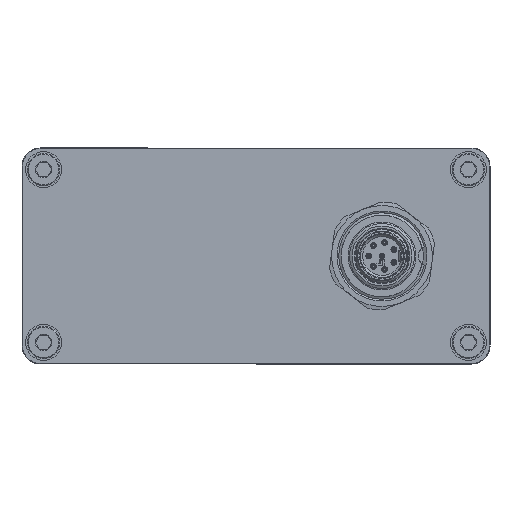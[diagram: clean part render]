
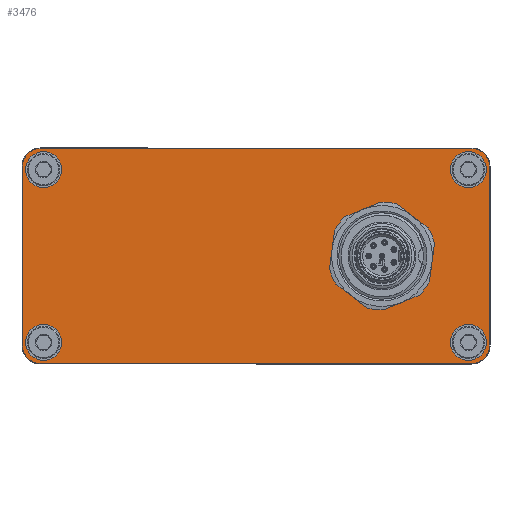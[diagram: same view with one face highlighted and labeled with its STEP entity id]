
A CAD part, left-side view. The second image highlights one B-rep face of the part: STEP entity #3476.
In plain terms, the highlighted planar face has unit normal (-1, 0, 0).
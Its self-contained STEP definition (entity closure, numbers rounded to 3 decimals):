
#2682=CARTESIAN_POINT('',(0.,-17.5,6.));
#2683=VERTEX_POINT('',#2682);
#2684=CARTESIAN_POINT('',(0.,-17.5,0.));
#2685=DIRECTION('',(1.0,0.0,0.0));
#2686=DIRECTION('',(0.0,0.0,-1.0));
#2687=AXIS2_PLACEMENT_3D('',#2684,#2685,#2686);
#2688=CIRCLE('',#2687,6.);
#2689=EDGE_CURVE('',#2683,#2683,#2688,.T.);
#2702=CARTESIAN_POINT('',(0.,-30.,-14.9));
#2703=VERTEX_POINT('',#2702);
#2721=CARTESIAN_POINT('',(0.,-32.4,-12.5));
#2722=VERTEX_POINT('',#2721);
#2729=CARTESIAN_POINT('',(0.,-30.,-12.5));
#2730=DIRECTION('',(1.,0.,0.));
#2731=DIRECTION('',(0.,-0.707,-0.707));
#2732=AXIS2_PLACEMENT_3D('',#2729,#2730,#2731);
#2733=CIRCLE('',#2732,2.4);
#2734=EDGE_CURVE('',#2722,#2703,#2733,.T.);
#2777=CARTESIAN_POINT('',(0.,30.,-14.9));
#2778=VERTEX_POINT('',#2777);
#2779=CARTESIAN_POINT('',(0.,-30.,-14.9));
#2780=DIRECTION('',(0.0,1.0,0.0));
#2781=VECTOR('',#2780,60.0);
#2782=LINE('',#2779,#2781);
#2783=EDGE_CURVE('',#2703,#2778,#2782,.T.);
#2807=CARTESIAN_POINT('',(0.,32.4,-12.5));
#2808=VERTEX_POINT('',#2807);
#2825=CARTESIAN_POINT('',(0.,30.,-12.5));
#2826=DIRECTION('',(1.0,0.,0.));
#2827=DIRECTION('',(0.,0.707,-0.707));
#2828=AXIS2_PLACEMENT_3D('',#2825,#2826,#2827);
#2829=CIRCLE('',#2828,2.4);
#2830=EDGE_CURVE('',#2778,#2808,#2829,.T.);
#2873=CARTESIAN_POINT('',(0.,32.4,12.5));
#2874=VERTEX_POINT('',#2873);
#2875=CARTESIAN_POINT('',(0.,32.4,-12.5));
#2876=DIRECTION('',(0.0,0.0,1.0));
#2877=VECTOR('',#2876,25.);
#2878=LINE('',#2875,#2877);
#2879=EDGE_CURVE('',#2808,#2874,#2878,.T.);
#2903=CARTESIAN_POINT('',(0.,30.,14.9));
#2904=VERTEX_POINT('',#2903);
#2921=CARTESIAN_POINT('',(0.,30.,12.5));
#2922=DIRECTION('',(1.,0.,0.));
#2923=DIRECTION('',(0.,0.707,0.707));
#2924=AXIS2_PLACEMENT_3D('',#2921,#2922,#2923);
#2925=CIRCLE('',#2924,2.4);
#2926=EDGE_CURVE('',#2874,#2904,#2925,.T.);
#3246=CARTESIAN_POINT('',(0.,-32.4,12.5));
#3247=VERTEX_POINT('',#3246);
#3265=CARTESIAN_POINT('',(0.,-30.,14.9));
#3266=VERTEX_POINT('',#3265);
#3273=CARTESIAN_POINT('',(0.,-30.,12.5));
#3274=DIRECTION('',(1.,0.,0.));
#3275=DIRECTION('',(0.,-0.707,0.707));
#3276=AXIS2_PLACEMENT_3D('',#3273,#3274,#3275);
#3277=CIRCLE('',#3276,2.4);
#3278=EDGE_CURVE('',#3266,#3247,#3277,.T.);
#3318=CARTESIAN_POINT('',(0.,-32.4,12.5));
#3319=DIRECTION('',(0.0,0.0,-1.0));
#3320=VECTOR('',#3319,25.0);
#3321=LINE('',#3318,#3320);
#3322=EDGE_CURVE('',#3247,#2722,#3321,.T.);
#3379=CARTESIAN_POINT('',(0.,30.,14.9));
#3380=DIRECTION('',(0.0,-1.0,0.0));
#3381=VECTOR('',#3380,60.0);
#3382=LINE('',#3379,#3381);
#3383=EDGE_CURVE('',#2904,#3266,#3382,.T.);
#3414=CARTESIAN_POINT('',(0.,50.0,0.0));
#3415=DIRECTION('',(-1.0,0.0,0.0));
#3416=DIRECTION('',(0.0,0.0,1.0));
#3417=AXIS2_PLACEMENT_3D('',#3414,#3415,#3416);
#3418=PLANE('',#3417);
#3419=ORIENTED_EDGE('',*,*,#2734,.F.);
#3420=ORIENTED_EDGE('',*,*,#3322,.F.);
#3421=ORIENTED_EDGE('',*,*,#3278,.F.);
#3422=ORIENTED_EDGE('',*,*,#3383,.F.);
#3423=ORIENTED_EDGE('',*,*,#2926,.F.);
#3424=ORIENTED_EDGE('',*,*,#2879,.F.);
#3425=ORIENTED_EDGE('',*,*,#2830,.F.);
#3426=ORIENTED_EDGE('',*,*,#2783,.F.);
#3427=EDGE_LOOP('',(#3419,#3420,#3421,#3422,#3423,#3424,#3425,#3426));
#3428=FACE_OUTER_BOUND('',#3427,.T.);
#3429=ORIENTED_EDGE('',*,*,#2689,.T.);
#3430=EDGE_LOOP('',(#3429));
#3431=FACE_BOUND('',#3430,.T.);
#3432=CARTESIAN_POINT('',(0.,29.5,-9.5));
#3433=VERTEX_POINT('',#3432);
#3434=CARTESIAN_POINT('',(0.,29.5,-12.));
#3435=DIRECTION('',(1.0,0.0,0.0));
#3436=DIRECTION('',(0.0,0.0,1.0));
#3437=AXIS2_PLACEMENT_3D('',#3434,#3435,#3436);
#3438=CIRCLE('',#3437,2.5);
#3439=EDGE_CURVE('',#3433,#3433,#3438,.T.);
#3440=ORIENTED_EDGE('',*,*,#3439,.T.);
#3441=EDGE_LOOP('',(#3440));
#3442=FACE_BOUND('',#3441,.T.);
#3443=CARTESIAN_POINT('',(0.,-29.5,-9.5));
#3444=VERTEX_POINT('',#3443);
#3445=CARTESIAN_POINT('',(0.,-29.5,-12.0));
#3446=DIRECTION('',(1.0,0.0,0.0));
#3447=DIRECTION('',(0.0,0.0,1.0));
#3448=AXIS2_PLACEMENT_3D('',#3445,#3446,#3447);
#3449=CIRCLE('',#3448,2.5);
#3450=EDGE_CURVE('',#3444,#3444,#3449,.T.);
#3451=ORIENTED_EDGE('',*,*,#3450,.T.);
#3452=EDGE_LOOP('',(#3451));
#3453=FACE_BOUND('',#3452,.T.);
#3454=CARTESIAN_POINT('',(0.,29.5,14.5));
#3455=VERTEX_POINT('',#3454);
#3456=CARTESIAN_POINT('',(0.,29.5,12.));
#3457=DIRECTION('',(1.0,0.0,0.0));
#3458=DIRECTION('',(0.0,0.0,1.0));
#3459=AXIS2_PLACEMENT_3D('',#3456,#3457,#3458);
#3460=CIRCLE('',#3459,2.5);
#3461=EDGE_CURVE('',#3455,#3455,#3460,.T.);
#3462=ORIENTED_EDGE('',*,*,#3461,.T.);
#3463=EDGE_LOOP('',(#3462));
#3464=FACE_BOUND('',#3463,.T.);
#3465=CARTESIAN_POINT('',(0.,-29.5,14.5));
#3466=VERTEX_POINT('',#3465);
#3467=CARTESIAN_POINT('',(0.,-29.5,12.));
#3468=DIRECTION('',(1.0,0.0,0.0));
#3469=DIRECTION('',(0.0,0.0,1.0));
#3470=AXIS2_PLACEMENT_3D('',#3467,#3468,#3469);
#3471=CIRCLE('',#3470,2.5);
#3472=EDGE_CURVE('',#3466,#3466,#3471,.T.);
#3473=ORIENTED_EDGE('',*,*,#3472,.T.);
#3474=EDGE_LOOP('',(#3473));
#3475=FACE_BOUND('',#3474,.T.);
#3476=ADVANCED_FACE('',(#3428,#3431,#3442,#3453,#3464,#3475),#3418,.T.);
